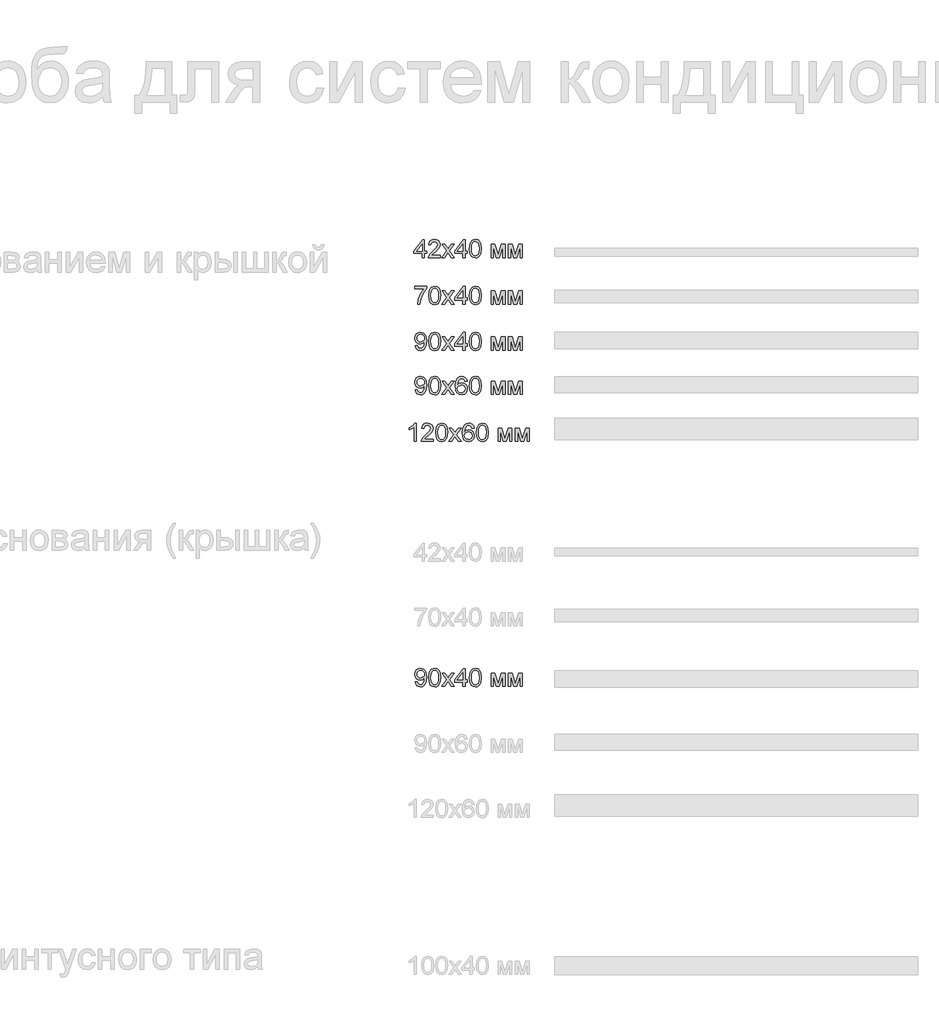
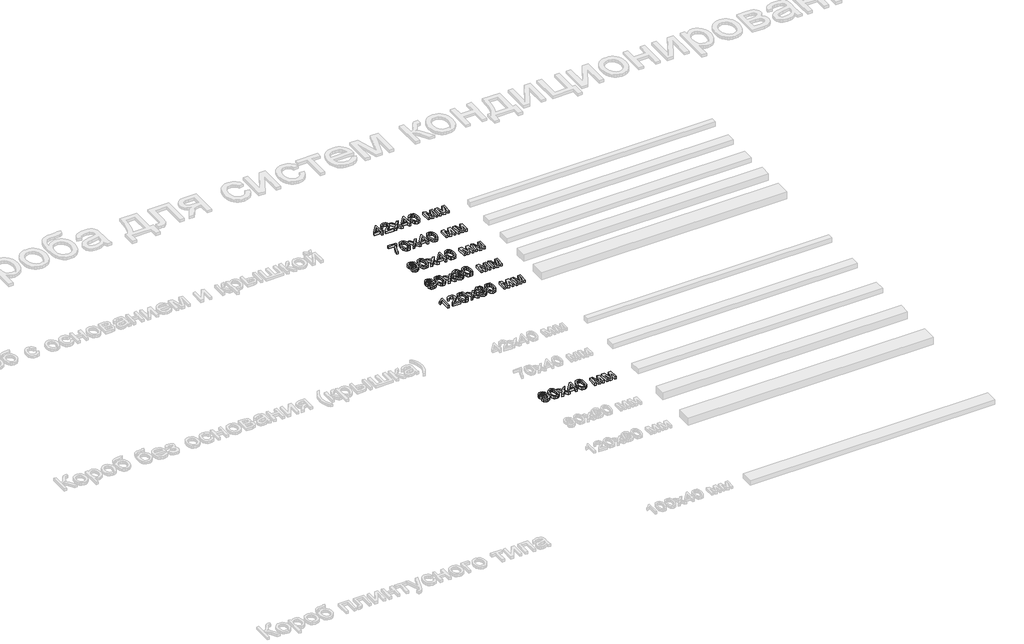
# One storey, part 8 of 21: 6 proxies.
"""IFC4 building model written with IfcOpenShell, lengths in millimetres."""

from ifc_helpers import new_model, si_unit, origin, origin_with_axes, place, context, project, spatial, polyline, outline, extrude, element, save

model = new_model("IFC4")

# Units and contexts
model_context = context("Model", 3, world=origin())
ifc_project = project(units=[si_unit("LENGTHUNIT", "METRE", prefix="MILLI")], contexts=[model_context])

# Site, building, storey
site = spatial("IfcSite", under=ifc_project)
building = spatial("IfcBuilding", under=site)
storey = spatial("IfcBuildingStorey", under=building, Name="Этаж 01", Elevation=0.0)

# Proxies
placement = place(None, origin())
element("IfcBuildingElementProxy", 1, Name="100 мм Arial", ObjectType="100 мм Arial", at=placement, inside=storey, context=model_context, shape_type="SweptSolid", body=[
    extrude(outline(polyline([(764.6146519, -2435.1237603), (764.6146519, -2411.5793126), (719.0953863, -2411.5793126), (719.0953863, -2399.0222739), (767.7539116, -2336.23708), (777.1716906, -2336.23708), (777.1716906, -2399.0222739), (789.7287294, -2399.0222739), (789.7287294, -2411.5793126), (777.1716906, -2411.5793126), (777.1716906, -2435.1237603), (764.6146519, -2435.1237603)]), holes=[polyline([(764.6146519, -2399.0222739), (764.6146519, -2360.2229861), (734.5464301, -2399.0222739), (764.6146519, -2399.0222739)])]), origin_with_axes(), (0.0, 0.0, 1.0), 20.0),
    extrude(outline(polyline([(865.070962, -2422.5667216), (865.070962, -2435.1237603), (799.1465085, -2435.1237603), (800.4954091, -2426.4662707), (808.1228292, -2413.1366798), (823.8436531, -2398.5808155), (845.5241653, -2377.6605927), (850.9442934, -2363.4358222), (845.8307337, -2351.9211158), (832.4766173, -2347.224489), (818.5584151, -2351.8107512), (813.2731771, -2364.4904173), (800.7161383, -2362.9207874), (803.7603618, -2350.7745502), (810.3423839, -2341.9024628), (820.1188479, -2336.4762033), (832.7463974, -2334.6674502), (845.4659174, -2336.6785384), (855.2239873, -2342.7118031), (861.431996, -2351.724912), (863.5013322, -2362.6755327), (861.2695147, -2374.5826467), (853.8505612, -2386.8944308), (835.8611316, -2404.0990454), (821.4156319, -2416.1778376), (815.7502492, -2422.5667216), (865.070962, -2422.5667216)])), origin_with_axes(), (0.0, 0.0, 1.0), 20.0),
    extrude(outline(polyline([(872.9191113, -2435.1237603), (899.7499714, -2398.0412552), (874.4887411, -2361.3511576), (889.5964284, -2361.3511576), (901.7855851, -2379.0094933), (907.4754933, -2387.3481519), (912.4051121, -2380.5300722), (926.286526, -2361.3511576), (941.3942133, -2361.3511576), (914.8576587, -2398.0412552), (940.4131946, -2435.1237603), (925.3055074, -2435.1237603), (909.92804, -2412.8301114), (907.1076113, -2408.758884), (888.0267985, -2435.1237603), (872.9191113, -2435.1237603)])), origin_with_axes(), (0.0, 0.0, 1.0), 20.0),
    extrude(outline(polyline([(989.0717199, -2435.1237603), (989.0717199, -2411.5793126), (943.5524543, -2411.5793126), (943.5524543, -2399.0222739), (992.2109796, -2336.23708), (1001.6287586, -2336.23708), (1001.6287586, -2399.0222739), (1014.1857974, -2399.0222739), (1014.1857974, -2411.5793126), (1001.6287586, -2411.5793126), (1001.6287586, -2435.1237603), (989.0717199, -2435.1237603)]), holes=[polyline([(989.0717199, -2399.0222739), (989.0717199, -2360.2229861), (959.0034981, -2399.0222739), (989.0717199, -2399.0222739)])]), origin_with_axes(), (0.0, 0.0, 1.0), 20.0),
    extrude(outline(polyline([(1025.1732063, -2385.7049456), (1028.864289, -2356.8016836), (1039.8271725, -2340.1366292), (1058.1354331, -2334.6674502), (1072.801662, -2337.9048117), (1082.9306796, -2347.2367517), (1088.8167915, -2362.0991843), (1091.0976599, -2385.7049456), (1087.4433654, -2414.4855804), (1076.5172701, -2431.187423), (1068.2859105, -2435.3168984), (1058.1354331, -2436.6933902), (1045.087885, -2434.3021572), (1035.1795966, -2427.1284583), (1027.6748039, -2410.1384415), (1025.1732063, -2385.7049456)]), holes=[polyline([(1037.7302451, -2385.6804202), (1039.2017731, -2405.4326176), (1043.616357, -2416.8645506), (1050.189182, -2422.3184012), (1058.1354331, -2424.1363514), (1066.0816842, -2422.3122698), (1072.6545092, -2416.8400252), (1077.0690931, -2405.4019608), (1078.5406211, -2385.6804202), (1077.118144, -2366.3727468), (1072.8507129, -2354.851909), (1066.2901507, -2349.131344), (1057.9882803, -2347.224489), (1050.1278683, -2348.9044834), (1043.8125607, -2353.9444667), (1039.250824, -2366.1826744), (1037.7302451, -2385.6804202)])]), origin_with_axes(), (0.0, 0.0, 1.0), 20.0),
    extrude(outline(polyline([(1144.4650746, -2361.3511576), (1166.0720105, -2361.3511576), (1182.7248021, -2420.4084805), (1200.6774435, -2361.3511576), (1221.3769371, -2361.3511576), (1221.3769371, -2435.1237603), (1208.8198983, -2435.1237603), (1208.8198983, -2375.7230808), (1190.7691551, -2435.1237603), (1174.2880417, -2435.1237603), (1157.0221134, -2372.8781267), (1157.0221134, -2435.1237603), (1144.4650746, -2435.1237603), (1144.4650746, -2361.3511576)])), origin_with_axes(), (0.0, 0.0, 1.0), 20.0),
    extrude(outline(polyline([(1240.2124952, -2361.3511576), (1261.8194311, -2361.3511576), (1278.4722227, -2420.4084805), (1296.4248641, -2361.3511576), (1317.1243577, -2361.3511576), (1317.1243577, -2435.1237603), (1304.5673189, -2435.1237603), (1304.5673189, -2375.7230808), (1286.5165757, -2435.1237603), (1270.0354623, -2435.1237603), (1252.769534, -2372.8781267), (1252.769534, -2435.1237603), (1240.2124952, -2435.1237603), (1240.2124952, -2361.3511576)])), origin_with_axes(), (0.0, 0.0, 1.0), 20.0),
])
element("IfcBuildingElementProxy", 2, Name="100 мм Arial", ObjectType="100 мм Arial", at=placement, inside=storey, context=model_context, shape_type="SweptSolid", body=[
    extrude(outline(polyline([(723.8042759, -2606.2041559), (723.8042759, -2593.6471171), (789.7287294, -2593.6471171), (789.7287294, -2603.8006602), (771.0280613, -2630.8154614), (756.7174517, -2665.2369534), (752.0576131, -2692.5337974), (739.5005743, -2692.5337974), (744.4915067, -2664.2068838), (758.1889797, -2632.1888875), (777.1716906, -2606.2041559), (723.8042759, -2606.2041559)])), origin_with_axes(), (0.0, 0.0, 1.0), 20.0),
    extrude(outline(polyline([(800.7161383, -2643.1149828), (804.407221, -2614.2117207), (815.3701045, -2597.5466663), (833.6783651, -2592.0774873), (848.344594, -2595.3148489), (858.4736116, -2604.6467888), (864.3597235, -2619.5092214), (866.6405919, -2643.1149828), (862.9862974, -2671.8956175), (852.0602021, -2688.5974601), (843.8288425, -2692.7269355), (833.6783651, -2694.1034273), (820.630817, -2691.7121943), (810.7225286, -2684.5384954), (803.2177359, -2667.5484786), (800.7161383, -2643.1149828)]), holes=[polyline([(813.2731771, -2643.0904573), (814.7447051, -2662.8426548), (819.159289, -2674.2745878), (825.732114, -2679.7284383), (833.6783651, -2681.5463885), (841.6246162, -2679.722307), (848.1974412, -2674.2500623), (852.6120251, -2662.8119979), (854.0835531, -2643.0904573), (852.6610761, -2623.7827839), (848.3936449, -2612.2619461), (841.8330827, -2606.5413811), (833.5312123, -2604.6345261), (825.6708003, -2606.3145205), (819.3554928, -2611.3545038), (814.793756, -2623.5927116), (813.2731771, -2643.0904573)])]), origin_with_axes(), (0.0, 0.0, 1.0), 20.0),
    extrude(outline(polyline([(872.9191113, -2692.5337974), (899.7499714, -2655.4512923), (874.4887411, -2618.7611947), (889.5964284, -2618.7611947), (901.7855851, -2636.4195305), (907.4754933, -2644.758189), (912.4051121, -2637.9401094), (926.286526, -2618.7611947), (941.3942133, -2618.7611947), (914.8576587, -2655.4512923), (940.4131946, -2692.5337974), (925.3055074, -2692.5337974), (909.92804, -2670.2401485), (907.1076113, -2666.1689211), (888.0267985, -2692.5337974), (872.9191113, -2692.5337974)])), origin_with_axes(), (0.0, 0.0, 1.0), 20.0),
    extrude(outline(polyline([(989.0717199, -2692.5337974), (989.0717199, -2668.9893498), (943.5524543, -2668.9893498), (943.5524543, -2656.432311), (992.2109796, -2593.6471171), (1001.6287586, -2593.6471171), (1001.6287586, -2656.432311), (1014.1857974, -2656.432311), (1014.1857974, -2668.9893498), (1001.6287586, -2668.9893498), (1001.6287586, -2692.5337974), (989.0717199, -2692.5337974)]), holes=[polyline([(989.0717199, -2656.432311), (989.0717199, -2617.6330232), (959.0034981, -2656.432311), (989.0717199, -2656.432311)])]), origin_with_axes(), (0.0, 0.0, 1.0), 20.0),
    extrude(outline(polyline([(1025.1732063, -2643.1149828), (1028.864289, -2614.2117207), (1039.8271725, -2597.5466663), (1058.1354331, -2592.0774873), (1072.801662, -2595.3148489), (1082.9306796, -2604.6467888), (1088.8167915, -2619.5092214), (1091.0976599, -2643.1149828), (1087.4433654, -2671.8956175), (1076.5172701, -2688.5974601), (1068.2859105, -2692.7269355), (1058.1354331, -2694.1034273), (1045.087885, -2691.7121943), (1035.1795966, -2684.5384954), (1027.6748039, -2667.5484786), (1025.1732063, -2643.1149828)]), holes=[polyline([(1037.7302451, -2643.0904573), (1039.2017731, -2662.8426548), (1043.616357, -2674.2745878), (1050.189182, -2679.7284383), (1058.1354331, -2681.5463885), (1066.0816842, -2679.722307), (1072.6545092, -2674.2500623), (1077.0690931, -2662.8119979), (1078.5406211, -2643.0904573), (1077.118144, -2623.7827839), (1072.8507129, -2612.2619461), (1066.2901507, -2606.5413811), (1057.9882803, -2604.6345261), (1050.1278683, -2606.3145205), (1043.8125607, -2611.3545038), (1039.250824, -2623.5927116), (1037.7302451, -2643.0904573)])]), origin_with_axes(), (0.0, 0.0, 1.0), 20.0),
    extrude(outline(polyline([(1144.4650746, -2618.7611947), (1166.0720105, -2618.7611947), (1182.7248021, -2677.8185176), (1200.6774435, -2618.7611947), (1221.3769371, -2618.7611947), (1221.3769371, -2692.5337974), (1208.8198983, -2692.5337974), (1208.8198983, -2633.133118), (1190.7691551, -2692.5337974), (1174.2880417, -2692.5337974), (1157.0221134, -2630.2881639), (1157.0221134, -2692.5337974), (1144.4650746, -2692.5337974), (1144.4650746, -2618.7611947)])), origin_with_axes(), (0.0, 0.0, 1.0), 20.0),
    extrude(outline(polyline([(1240.2124952, -2618.7611947), (1261.8194311, -2618.7611947), (1278.4722227, -2677.8185176), (1296.4248641, -2618.7611947), (1317.1243577, -2618.7611947), (1317.1243577, -2692.5337974), (1304.5673189, -2692.5337974), (1304.5673189, -2633.133118), (1286.5165757, -2692.5337974), (1270.0354623, -2692.5337974), (1252.769534, -2630.2881639), (1252.769534, -2692.5337974), (1240.2124952, -2692.5337974), (1240.2124952, -2618.7611947)])), origin_with_axes(), (0.0, 0.0, 1.0), 20.0),
])
element("IfcBuildingElementProxy", 3, Name="100 мм Arial", ObjectType="100 мм Arial", at=placement, inside=storey, context=model_context, shape_type="SweptSolid", body=[
    extrude(outline(polyline([(725.3739057, -2920.829757), (737.9309445, -2919.2601272), (743.5718018, -2931.2408175), (754.2649051, -2934.9564256), (764.4307109, -2932.5651927), (771.3223669, -2926.1763087), (775.4303825, -2915.2624762), (777.245267, -2900.6943492), (777.1716906, -2898.2418025), (767.1285122, -2907.7576835), (753.3574628, -2911.411978), (741.9071357, -2909.1801605), (732.3759264, -2902.4847082), (725.9471885, -2892.1410928), (723.8042759, -2878.964786), (726.0514217, -2865.3531522), (732.7928593, -2854.6845743), (742.9188112, -2847.7867869), (755.3195001, -2845.4875244), (773.2108278, -2850.7359742), (785.5226119, -2865.6965087), (789.7287294, -2893.8026931), (785.5348747, -2924.3001105), (780.3201474, -2934.2911724), (773.063675, -2941.5783016), (764.0781573, -2946.0296737), (753.6762939, -2947.5134644), (742.940271, -2945.7629593), (734.3747519, -2940.5114438), (728.3844067, -2932.0900118), (725.3739057, -2920.829757)]), holes=[polyline([(777.1716906, -2878.6704804), (775.8166586, -2870.1601436), (771.7515626, -2863.611844), (765.4423864, -2859.4363834), (757.3551138, -2858.0445632), (748.9674043, -2859.5436823), (742.2474266, -2864.0410397), (737.8328426, -2870.9234987), (736.3613146, -2879.5779226), (737.7531349, -2887.3371671), (741.9285955, -2893.4961248), (748.4830264, -2897.5152356), (757.0117573, -2898.8549392), (771.4940452, -2893.4961248), (775.7522793, -2887.1103065), (777.1716906, -2878.6704804)])]), origin_with_axes(), (0.0, 0.0, 1.0), 20.0),
    extrude(outline(polyline([(800.7161383, -2896.5250199), (804.407221, -2867.6217578), (815.3701045, -2850.9567034), (833.6783651, -2845.4875244), (848.344594, -2848.724886), (858.4736116, -2858.0568259), (864.3597235, -2872.9192585), (866.6405919, -2896.5250199), (862.9862974, -2925.3056546), (852.0602021, -2942.0074972), (843.8288425, -2946.1369726), (833.6783651, -2947.5134644), (820.630817, -2945.1222314), (810.7225286, -2937.9485325), (803.2177359, -2920.9585157), (800.7161383, -2896.5250199)]), holes=[polyline([(813.2731771, -2896.5004944), (814.7447051, -2916.2526919), (819.159289, -2927.6846249), (825.732114, -2933.1384755), (833.6783651, -2934.9564256), (841.6246162, -2933.1323441), (848.1974412, -2927.6600994), (852.6120251, -2916.222035), (854.0835531, -2896.5004944), (852.6610761, -2877.192821), (848.3936449, -2865.6719832), (841.8330827, -2859.9514182), (833.5312123, -2858.0445632), (825.6708003, -2859.7245576), (819.3554928, -2864.764541), (814.793756, -2877.0027487), (813.2731771, -2896.5004944)])]), origin_with_axes(), (0.0, 0.0, 1.0), 20.0),
    extrude(outline(polyline([(872.9191113, -2945.9438346), (899.7499714, -2908.8613295), (874.4887411, -2872.1712318), (889.5964284, -2872.1712318), (901.7855851, -2889.8295676), (907.4754933, -2898.1682261), (912.4051121, -2891.3501465), (926.286526, -2872.1712318), (941.3942133, -2872.1712318), (914.8576587, -2908.8613295), (940.4131946, -2945.9438346), (925.3055074, -2945.9438346), (909.92804, -2923.6501857), (907.1076113, -2919.5789582), (888.0267985, -2945.9438346), (872.9191113, -2945.9438346)])), origin_with_axes(), (0.0, 0.0, 1.0), 20.0),
    extrude(outline(polyline([(989.0717199, -2945.9438346), (989.0717199, -2922.3993869), (943.5524543, -2922.3993869), (943.5524543, -2909.8423481), (992.2109796, -2847.0571543), (1001.6287586, -2847.0571543), (1001.6287586, -2909.8423481), (1014.1857974, -2909.8423481), (1014.1857974, -2922.3993869), (1001.6287586, -2922.3993869), (1001.6287586, -2945.9438346), (989.0717199, -2945.9438346)]), holes=[polyline([(989.0717199, -2909.8423481), (989.0717199, -2871.0430603), (959.0034981, -2909.8423481), (989.0717199, -2909.8423481)])]), origin_with_axes(), (0.0, 0.0, 1.0), 20.0),
    extrude(outline(polyline([(1025.1732063, -2896.5250199), (1028.864289, -2867.6217578), (1039.8271725, -2850.9567034), (1058.1354331, -2845.4875244), (1072.801662, -2848.724886), (1082.9306796, -2858.0568259), (1088.8167915, -2872.9192585), (1091.0976599, -2896.5250199), (1087.4433654, -2925.3056546), (1076.5172701, -2942.0074972), (1068.2859105, -2946.1369726), (1058.1354331, -2947.5134644), (1045.087885, -2945.1222314), (1035.1795966, -2937.9485325), (1027.6748039, -2920.9585157), (1025.1732063, -2896.5250199)]), holes=[polyline([(1037.7302451, -2896.5004944), (1039.2017731, -2916.2526919), (1043.616357, -2927.6846249), (1050.189182, -2933.1384755), (1058.1354331, -2934.9564256), (1066.0816842, -2933.1323441), (1072.6545092, -2927.6600994), (1077.0690931, -2916.222035), (1078.5406211, -2896.5004944), (1077.118144, -2877.192821), (1072.8507129, -2865.6719832), (1066.2901507, -2859.9514182), (1057.9882803, -2858.0445632), (1050.1278683, -2859.7245576), (1043.8125607, -2864.764541), (1039.250824, -2877.0027487), (1037.7302451, -2896.5004944)])]), origin_with_axes(), (0.0, 0.0, 1.0), 20.0),
    extrude(outline(polyline([(1144.4650746, -2872.1712318), (1166.0720105, -2872.1712318), (1182.7248021, -2931.2285548), (1200.6774435, -2872.1712318), (1221.3769371, -2872.1712318), (1221.3769371, -2945.9438346), (1208.8198983, -2945.9438346), (1208.8198983, -2886.5431551), (1190.7691551, -2945.9438346), (1174.2880417, -2945.9438346), (1157.0221134, -2883.698201), (1157.0221134, -2945.9438346), (1144.4650746, -2945.9438346), (1144.4650746, -2872.1712318)])), origin_with_axes(), (0.0, 0.0, 1.0), 20.0),
    extrude(outline(polyline([(1240.2124952, -2872.1712318), (1261.8194311, -2872.1712318), (1278.4722227, -2931.2285548), (1296.4248641, -2872.1712318), (1317.1243577, -2872.1712318), (1317.1243577, -2945.9438346), (1304.5673189, -2945.9438346), (1304.5673189, -2886.5431551), (1286.5165757, -2945.9438346), (1270.0354623, -2945.9438346), (1252.769534, -2883.698201), (1252.769534, -2945.9438346), (1240.2124952, -2945.9438346), (1240.2124952, -2872.1712318)])), origin_with_axes(), (0.0, 0.0, 1.0), 20.0),
])
element("IfcBuildingElementProxy", 4, Name="100 мм Arial", ObjectType="100 мм Arial", at=placement, inside=storey, context=model_context, shape_type="SweptSolid", body=[
    extrude(outline(polyline([(725.3739057, -3164.2397941), (737.9309445, -3162.6701643), (743.5718018, -3174.6508546), (754.2649051, -3178.3664628), (764.4307109, -3175.9752298), (771.3223669, -3169.5863458), (775.4303825, -3158.6725133), (777.245267, -3144.1043863), (777.1716906, -3141.6518396), (767.1285122, -3151.1677206), (753.3574628, -3154.8220151), (741.9071357, -3152.5901976), (732.3759264, -3145.8947453), (725.9471885, -3135.5511299), (723.8042759, -3122.3748231), (726.0514217, -3108.7631893), (732.7928593, -3098.0946114), (742.9188112, -3091.196824), (755.3195001, -3088.8975615), (773.2108278, -3094.1460113), (785.5226119, -3109.1065458), (789.7287294, -3137.2127302), (785.5348747, -3167.7101476), (780.3201474, -3177.7012095), (773.063675, -3184.9883387), (764.0781573, -3189.4397108), (753.6762939, -3190.9235015), (742.940271, -3189.1729964), (734.3747519, -3183.9214809), (728.3844067, -3175.5000489), (725.3739057, -3164.2397941)]), holes=[polyline([(777.1716906, -3122.0805175), (775.8166586, -3113.5701807), (771.7515626, -3107.0218812), (765.4423864, -3102.8464205), (757.3551138, -3101.4546003), (748.9674043, -3102.9537194), (742.2474266, -3107.4510768), (737.8328426, -3114.3335358), (736.3613146, -3122.9879598), (737.7531349, -3130.7472042), (741.9285955, -3136.9061619), (748.4830264, -3140.9252727), (757.0117573, -3142.2649763), (771.4940452, -3136.9061619), (775.7522793, -3130.5203436), (777.1716906, -3122.0805175)])]), origin_with_axes(), (0.0, 0.0, 1.0), 20.0),
    extrude(outline(polyline([(800.7161383, -3139.935057), (804.407221, -3111.0317949), (815.3701045, -3094.3667405), (833.6783651, -3088.8975615), (848.344594, -3092.1349231), (858.4736116, -3101.466863), (864.3597235, -3116.3292956), (866.6405919, -3139.935057), (862.9862974, -3168.7156918), (852.0602021, -3185.4175343), (843.8288425, -3189.5470097), (833.6783651, -3190.9235015), (820.630817, -3188.5322686), (810.7225286, -3181.3585697), (803.2177359, -3164.3685528), (800.7161383, -3139.935057)]), holes=[polyline([(813.2731771, -3139.9105315), (814.7447051, -3159.662729), (819.159289, -3171.094662), (825.732114, -3176.5485126), (833.6783651, -3178.3664628), (841.6246162, -3176.5423812), (848.1974412, -3171.0701365), (852.6120251, -3159.6320722), (854.0835531, -3139.9105315), (852.6610761, -3120.6028582), (848.3936449, -3109.0820203), (841.8330827, -3103.3614553), (833.5312123, -3101.4546003), (825.6708003, -3103.1345947), (819.3554928, -3108.1745781), (814.793756, -3120.4127858), (813.2731771, -3139.9105315)])]), origin_with_axes(), (0.0, 0.0, 1.0), 20.0),
    extrude(outline(polyline([(872.9191113, -3189.3538717), (899.7499714, -3152.2713666), (874.4887411, -3115.5812689), (889.5964284, -3115.5812689), (901.7855851, -3133.2396047), (907.4754933, -3141.5782632), (912.4051121, -3134.7601836), (926.286526, -3115.5812689), (941.3942133, -3115.5812689), (914.8576587, -3152.2713666), (940.4131946, -3189.3538717), (925.3055074, -3189.3538717), (909.92804, -3167.0602228), (907.1076113, -3162.9889954), (888.0267985, -3189.3538717), (872.9191113, -3189.3538717)])), origin_with_axes(), (0.0, 0.0, 1.0), 20.0),
    extrude(outline(polyline([(1012.6161676, -3115.5812689), (1000.0591288, -3117.1508988), (995.3011883, -3106.6785246), (982.7196241, -3101.4546003), (971.3888586, -3104.4957581), (962.8172081, -3115.9123627), (959.2487528, -3138.2918508), (970.3220008, -3128.2731978), (984.0439993, -3124.999048), (995.6445448, -3127.2369968), (1005.381155, -3133.9508432), (1011.9846368, -3144.2086195), (1014.1857974, -3157.078358), (1010.0409936, -3174.4055999), (998.6366517, -3186.6683331), (982.1800638, -3190.9235015), (967.9338336, -3188.1030729), (956.5877397, -3179.641787), (949.1657204, -3164.705778), (946.691714, -3142.46118), (949.4385663, -3117.4513357), (957.6791229, -3100.3509543), (968.9301806, -3091.7609097), (983.504439, -3088.8975615), (994.5225048, -3090.6695265), (1003.3455413, -3095.9854213), (1009.5259588, -3104.4283131), (1012.6161676, -3115.5812689)]), holes=[polyline([(959.2487528, -3156.8821542), (962.1550206, -3167.7591986), (969.8805424, -3175.6563987), (981.1990452, -3178.3664628), (989.4855871, -3176.9623798), (996.0001641, -3172.750131), (1000.22161, -3166.1282551), (1001.6287586, -3157.4952909), (1000.2400041, -3149.208749), (996.0737405, -3142.8903757), (989.4487989, -3138.889659), (980.6840104, -3137.5560868), (965.490484, -3142.8903757), (960.8091856, -3149.0554648), (959.2487528, -3156.8821542)])]), origin_with_axes(), (0.0, 0.0, 1.0), 20.0),
    extrude(outline(polyline([(1025.1732063, -3139.935057), (1028.864289, -3111.0317949), (1039.8271725, -3094.3667405), (1058.1354331, -3088.8975615), (1072.801662, -3092.1349231), (1082.9306796, -3101.466863), (1088.8167915, -3116.3292956), (1091.0976599, -3139.935057), (1087.4433654, -3168.7156918), (1076.5172701, -3185.4175343), (1068.2859105, -3189.5470097), (1058.1354331, -3190.9235015), (1045.087885, -3188.5322686), (1035.1795966, -3181.3585697), (1027.6748039, -3164.3685528), (1025.1732063, -3139.935057)]), holes=[polyline([(1037.7302451, -3139.9105315), (1039.2017731, -3159.662729), (1043.616357, -3171.094662), (1050.189182, -3176.5485126), (1058.1354331, -3178.3664628), (1066.0816842, -3176.5423812), (1072.6545092, -3171.0701365), (1077.0690931, -3159.6320722), (1078.5406211, -3139.9105315), (1077.118144, -3120.6028582), (1072.8507129, -3109.0820203), (1066.2901507, -3103.3614553), (1057.9882803, -3101.4546003), (1050.1278683, -3103.1345947), (1043.8125607, -3108.1745781), (1039.250824, -3120.4127858), (1037.7302451, -3139.9105315)])]), origin_with_axes(), (0.0, 0.0, 1.0), 20.0),
    extrude(outline(polyline([(1144.4650746, -3115.5812689), (1166.0720105, -3115.5812689), (1182.7248021, -3174.6385919), (1200.6774435, -3115.5812689), (1221.3769371, -3115.5812689), (1221.3769371, -3189.3538717), (1208.8198983, -3189.3538717), (1208.8198983, -3129.9531922), (1190.7691551, -3189.3538717), (1174.2880417, -3189.3538717), (1157.0221134, -3127.1082381), (1157.0221134, -3189.3538717), (1144.4650746, -3189.3538717), (1144.4650746, -3115.5812689)])), origin_with_axes(), (0.0, 0.0, 1.0), 20.0),
    extrude(outline(polyline([(1240.2124952, -3115.5812689), (1261.8194311, -3115.5812689), (1278.4722227, -3174.6385919), (1296.4248641, -3115.5812689), (1317.1243577, -3115.5812689), (1317.1243577, -3189.3538717), (1304.5673189, -3189.3538717), (1304.5673189, -3129.9531922), (1286.5165757, -3189.3538717), (1270.0354623, -3189.3538717), (1252.769534, -3127.1082381), (1252.769534, -3189.3538717), (1240.2124952, -3189.3538717), (1240.2124952, -3115.5812689)])), origin_with_axes(), (0.0, 0.0, 1.0), 20.0),
])
element("IfcBuildingElementProxy", 5, Name="100 мм Arial", ObjectType="100 мм Arial", at=placement, inside=storey, context=model_context, shape_type="SweptSolid", body=[
    extrude(outline(polyline([(732.43724, -3447.7639088), (719.8802013, -3447.7639088), (719.8802013, -3369.4786202), (707.9853501, -3377.9521689), (694.7661237, -3384.2920019), (694.7661237, -3372.4216762), (713.1724862, -3360.6739778), (724.3438361, -3347.3075987), (732.43724, -3347.3075987), (732.43724, -3447.7639088)])), origin_with_axes(), (0.0, 0.0, 1.0), 20.0),
    extrude(outline(polyline([(826.6150308, -3435.20687), (826.6150308, -3447.7639088), (760.6905773, -3447.7639088), (762.0394779, -3439.1064192), (769.6668979, -3425.7768282), (785.3877219, -3411.2209639), (807.0682341, -3390.3007412), (812.4883622, -3376.0759707), (807.3748024, -3364.5612642), (794.020686, -3359.8646374), (780.1024839, -3364.4508996), (774.8172459, -3377.1305657), (762.2602071, -3375.5609359), (765.3044306, -3363.4146987), (771.8864526, -3354.5426112), (781.6629167, -3349.1163518), (794.2904662, -3347.3075987), (807.0099861, -3349.3186869), (816.7680561, -3355.3519516), (822.9760647, -3364.3650605), (825.0454009, -3375.3156812), (822.8135835, -3387.2227951), (815.3946299, -3399.5345792), (797.4052004, -3416.7391939), (782.9597007, -3428.8179861), (777.294318, -3435.20687), (826.6150308, -3435.20687)])), origin_with_axes(), (0.0, 0.0, 1.0), 20.0),
    extrude(outline(polyline([(839.1720696, -3398.3450941), (842.8631522, -3369.441832), (853.8260357, -3352.7767776), (872.1342963, -3347.3075987), (886.8005252, -3350.5449602), (896.9295428, -3359.8769002), (902.8156547, -3374.7393328), (905.0965231, -3398.3450941), (901.4422286, -3427.1257289), (890.5161334, -3443.8275715), (882.2847737, -3447.9570469), (872.1342963, -3449.3335386), (859.0867482, -3446.9423057), (849.1784598, -3439.7686068), (841.6736671, -3422.77859), (839.1720696, -3398.3450941)]), holes=[polyline([(851.7291083, -3398.3205687), (853.2006363, -3418.0727661), (857.6152203, -3429.5046991), (864.1880452, -3434.9585497), (872.1342963, -3436.7764999), (880.0805474, -3434.9524183), (886.6533724, -3429.4801736), (891.0679563, -3418.0421093), (892.5394843, -3398.3205687), (891.1170073, -3379.0128953), (886.8495761, -3367.4920575), (880.2890139, -3361.7714924), (871.9871435, -3359.8646374), (864.1267316, -3361.5446319), (857.811424, -3366.5846152), (853.2496872, -3378.8228229), (851.7291083, -3398.3205687)])]), origin_with_axes(), (0.0, 0.0, 1.0), 20.0),
    extrude(outline(polyline([(911.3750425, -3447.7639088), (938.2059027, -3410.6814037), (912.9446723, -3373.991306), (928.0523596, -3373.991306), (940.2415164, -3391.6496418), (945.9314246, -3399.9883004), (950.8610433, -3393.1702207), (964.7424573, -3373.991306), (979.8501445, -3373.991306), (953.3135899, -3410.6814037), (978.8691259, -3447.7639088), (963.7614386, -3447.7639088), (948.3839712, -3425.4702599), (945.5635426, -3421.3990325), (926.4827298, -3447.7639088), (911.3750425, -3447.7639088)])), origin_with_axes(), (0.0, 0.0, 1.0), 20.0),
    extrude(outline(polyline([(1051.0720988, -3373.991306), (1038.51506, -3375.5609359), (1033.7571195, -3365.0885618), (1021.1755553, -3359.8646374), (1009.8447899, -3362.9057952), (1001.2731394, -3374.3223998), (997.704684, -3396.7018879), (1008.7779321, -3386.6832349), (1022.4999305, -3383.4090851), (1034.1004761, -3385.6470339), (1043.8370862, -3392.3608803), (1050.440568, -3402.6186566), (1052.6417286, -3415.4883951), (1048.4969248, -3432.8156371), (1037.092583, -3445.0783702), (1020.6359951, -3449.3335386), (1006.3897648, -3446.51311), (995.0436709, -3438.0518241), (987.6216517, -3423.1158151), (985.1476452, -3400.8712172), (987.8944975, -3375.8613728), (996.1350542, -3358.7609914), (1007.3861119, -3350.1709468), (1021.9603702, -3347.3075987), (1032.978436, -3349.0795636), (1041.8014725, -3354.3954584), (1047.98189, -3362.8383502), (1051.0720988, -3373.991306)]), holes=[polyline([(997.704684, -3415.2921914), (1000.6109518, -3426.1692357), (1008.3364737, -3434.0664358), (1019.6549764, -3436.7764999), (1027.9415183, -3435.3724169), (1034.4560953, -3431.1601681), (1038.6775412, -3424.5382922), (1040.0846899, -3415.905328), (1038.6959353, -3407.6187861), (1034.5296717, -3401.3004128), (1027.9047301, -3397.2996961), (1019.1399416, -3395.9661239), (1003.9464152, -3401.3004128), (999.2651168, -3407.4655019), (997.704684, -3415.2921914)])]), origin_with_axes(), (0.0, 0.0, 1.0), 20.0),
    extrude(outline(polyline([(1063.6291376, -3398.3450941), (1067.3202202, -3369.441832), (1078.2831037, -3352.7767776), (1096.5913643, -3347.3075987), (1111.2575932, -3350.5449602), (1121.3866108, -3359.8769002), (1127.2727227, -3374.7393328), (1129.5535911, -3398.3450941), (1125.8992966, -3427.1257289), (1114.9732013, -3443.8275715), (1106.7418417, -3447.9570469), (1096.5913643, -3449.3335386), (1083.5438162, -3446.9423057), (1073.6355278, -3439.7686068), (1066.1307351, -3422.77859), (1063.6291376, -3398.3450941)]), holes=[polyline([(1076.1861763, -3398.3205687), (1077.6577043, -3418.0727661), (1082.0722882, -3429.5046991), (1088.6451132, -3434.9585497), (1096.5913643, -3436.7764999), (1104.5376154, -3434.9524183), (1111.1104404, -3429.4801736), (1115.5250243, -3418.0421093), (1116.9965523, -3398.3205687), (1115.5740753, -3379.0128953), (1111.3066441, -3367.4920575), (1104.7460819, -3361.7714924), (1096.4442115, -3359.8646374), (1088.5837996, -3361.5446319), (1082.268492, -3366.5846152), (1077.7067552, -3378.8228229), (1076.1861763, -3398.3205687)])]), origin_with_axes(), (0.0, 0.0, 1.0), 20.0),
    extrude(outline(polyline([(1182.9210059, -3373.991306), (1204.5279417, -3373.991306), (1221.1807334, -3433.048629), (1239.1333747, -3373.991306), (1259.8328683, -3373.991306), (1259.8328683, -3447.7639088), (1247.2758295, -3447.7639088), (1247.2758295, -3388.3632293), (1229.2250863, -3447.7639088), (1212.7439729, -3447.7639088), (1195.4780446, -3385.5182752), (1195.4780446, -3447.7639088), (1182.9210059, -3447.7639088), (1182.9210059, -3373.991306)])), origin_with_axes(), (0.0, 0.0, 1.0), 20.0),
    extrude(outline(polyline([(1278.6684265, -3373.991306), (1300.2753623, -3373.991306), (1316.928154, -3433.048629), (1334.8807953, -3373.991306), (1355.5802889, -3373.991306), (1355.5802889, -3447.7639088), (1343.0232502, -3447.7639088), (1343.0232502, -3388.3632293), (1324.9725069, -3447.7639088), (1308.4913935, -3447.7639088), (1291.2254652, -3385.5182752), (1291.2254652, -3447.7639088), (1278.6684265, -3447.7639088), (1278.6684265, -3373.991306)])), origin_with_axes(), (0.0, 0.0, 1.0), 20.0),
])
element("IfcBuildingElementProxy", 6, Name="100 мм Arial", ObjectType="100 мм Arial", at=placement, inside=storey, context=model_context, shape_type="SweptSolid", body=[
    extrude(outline(polyline([(725.3739057, -4773.4345401), (737.9309445, -4771.8649103), (743.5718018, -4783.8456006), (754.2649051, -4787.5612088), (764.4307109, -4785.1699758), (771.3223669, -4778.7810918), (775.4303825, -4767.8672593), (777.245267, -4753.2991323), (777.1716906, -4750.8465856), (767.1285122, -4760.3624666), (753.3574628, -4764.0167611), (741.9071357, -4761.7849436), (732.3759264, -4755.0894913), (725.9471885, -4744.7458759), (723.8042759, -4731.5695691), (726.0514217, -4717.9579353), (732.7928593, -4707.2893574), (742.9188112, -4700.39157), (755.3195001, -4698.0923075), (773.2108278, -4703.3407573), (785.5226119, -4718.3012918), (789.7287294, -4746.4074762), (785.5348747, -4776.9048936), (780.3201474, -4786.8959555), (773.063675, -4794.1830847), (764.0781573, -4798.6344568), (753.6762939, -4800.1182475), (742.940271, -4798.3677424), (734.3747519, -4793.1162269), (728.3844067, -4784.6947949), (725.3739057, -4773.4345401)]), holes=[polyline([(777.1716906, -4731.2752635), (775.8166586, -4722.7649267), (771.7515626, -4716.2166272), (765.4423864, -4712.0411665), (757.3551138, -4710.6493463), (748.9674043, -4712.1484654), (742.2474266, -4716.6458228), (737.8328426, -4723.5282818), (736.3613146, -4732.1827057), (737.7531349, -4739.9419502), (741.9285955, -4746.1009079), (748.4830264, -4750.1200187), (757.0117573, -4751.4597223), (771.4940452, -4746.1009079), (775.7522793, -4739.7150896), (777.1716906, -4731.2752635)])]), origin_with_axes(), (0.0, 0.0, 1.0), 20.0),
    extrude(outline(polyline([(800.7161383, -4749.129803), (804.407221, -4720.2265409), (815.3701045, -4703.5614865), (833.6783651, -4698.0923075), (848.344594, -4701.3296691), (858.4736116, -4710.661609), (864.3597235, -4725.5240416), (866.6405919, -4749.129803), (862.9862974, -4777.9104377), (852.0602021, -4794.6122803), (843.8288425, -4798.7417557), (833.6783651, -4800.1182475), (820.630817, -4797.7270146), (810.7225286, -4790.5533156), (803.2177359, -4773.5632988), (800.7161383, -4749.129803)]), holes=[polyline([(813.2731771, -4749.1052775), (814.7447051, -4768.857475), (819.159289, -4780.289408), (825.732114, -4785.7432586), (833.6783651, -4787.5612088), (841.6246162, -4785.7371272), (848.1974412, -4780.2648825), (852.6120251, -4768.8268181), (854.0835531, -4749.1052775), (852.6610761, -4729.7976041), (848.3936449, -4718.2767663), (841.8330827, -4712.5562013), (833.5312123, -4710.6493463), (825.6708003, -4712.3293407), (819.3554928, -4717.3693241), (814.793756, -4729.6075318), (813.2731771, -4749.1052775)])]), origin_with_axes(), (0.0, 0.0, 1.0), 20.0),
    extrude(outline(polyline([(872.9191113, -4798.5486177), (899.7499714, -4761.4661126), (874.4887411, -4724.7760149), (889.5964284, -4724.7760149), (901.7855851, -4742.4343507), (907.4754933, -4750.7730092), (912.4051121, -4743.9549296), (926.286526, -4724.7760149), (941.3942133, -4724.7760149), (914.8576587, -4761.4661126), (940.4131946, -4798.5486177), (925.3055074, -4798.5486177), (909.92804, -4776.2549688), (907.1076113, -4772.1837414), (888.0267985, -4798.5486177), (872.9191113, -4798.5486177)])), origin_with_axes(), (0.0, 0.0, 1.0), 20.0),
    extrude(outline(polyline([(989.0717199, -4798.5486177), (989.0717199, -4775.00417), (943.5524543, -4775.00417), (943.5524543, -4762.4471312), (992.2109796, -4699.6619374), (1001.6287586, -4699.6619374), (1001.6287586, -4762.4471312), (1014.1857974, -4762.4471312), (1014.1857974, -4775.00417), (1001.6287586, -4775.00417), (1001.6287586, -4798.5486177), (989.0717199, -4798.5486177)]), holes=[polyline([(989.0717199, -4762.4471312), (989.0717199, -4723.6478435), (959.0034981, -4762.4471312), (989.0717199, -4762.4471312)])]), origin_with_axes(), (0.0, 0.0, 1.0), 20.0),
    extrude(outline(polyline([(1025.1732063, -4749.129803), (1028.864289, -4720.2265409), (1039.8271725, -4703.5614865), (1058.1354331, -4698.0923075), (1072.801662, -4701.3296691), (1082.9306796, -4710.661609), (1088.8167915, -4725.5240416), (1091.0976599, -4749.129803), (1087.4433654, -4777.9104377), (1076.5172701, -4794.6122803), (1068.2859105, -4798.7417557), (1058.1354331, -4800.1182475), (1045.087885, -4797.7270146), (1035.1795966, -4790.5533156), (1027.6748039, -4773.5632988), (1025.1732063, -4749.129803)]), holes=[polyline([(1037.7302451, -4749.1052775), (1039.2017731, -4768.857475), (1043.616357, -4780.289408), (1050.189182, -4785.7432586), (1058.1354331, -4787.5612088), (1066.0816842, -4785.7371272), (1072.6545092, -4780.2648825), (1077.0690931, -4768.8268181), (1078.5406211, -4749.1052775), (1077.118144, -4729.7976041), (1072.8507129, -4718.2767663), (1066.2901507, -4712.5562013), (1057.9882803, -4710.6493463), (1050.1278683, -4712.3293407), (1043.8125607, -4717.3693241), (1039.250824, -4729.6075318), (1037.7302451, -4749.1052775)])]), origin_with_axes(), (0.0, 0.0, 1.0), 20.0),
    extrude(outline(polyline([(1144.4650746, -4724.7760149), (1166.0720105, -4724.7760149), (1182.7248021, -4783.8333379), (1200.6774435, -4724.7760149), (1221.3769371, -4724.7760149), (1221.3769371, -4798.5486177), (1208.8198983, -4798.5486177), (1208.8198983, -4739.1479382), (1190.7691551, -4798.5486177), (1174.2880417, -4798.5486177), (1157.0221134, -4736.3029841), (1157.0221134, -4798.5486177), (1144.4650746, -4798.5486177), (1144.4650746, -4724.7760149)])), origin_with_axes(), (0.0, 0.0, 1.0), 20.0),
    extrude(outline(polyline([(1240.2124952, -4724.7760149), (1261.8194311, -4724.7760149), (1278.4722227, -4783.8333379), (1296.4248641, -4724.7760149), (1317.1243577, -4724.7760149), (1317.1243577, -4798.5486177), (1304.5673189, -4798.5486177), (1304.5673189, -4739.1479382), (1286.5165757, -4798.5486177), (1270.0354623, -4798.5486177), (1252.769534, -4736.3029841), (1252.769534, -4798.5486177), (1240.2124952, -4798.5486177), (1240.2124952, -4724.7760149)])), origin_with_axes(), (0.0, 0.0, 1.0), 20.0),
])

save(model, "model.ifc")
